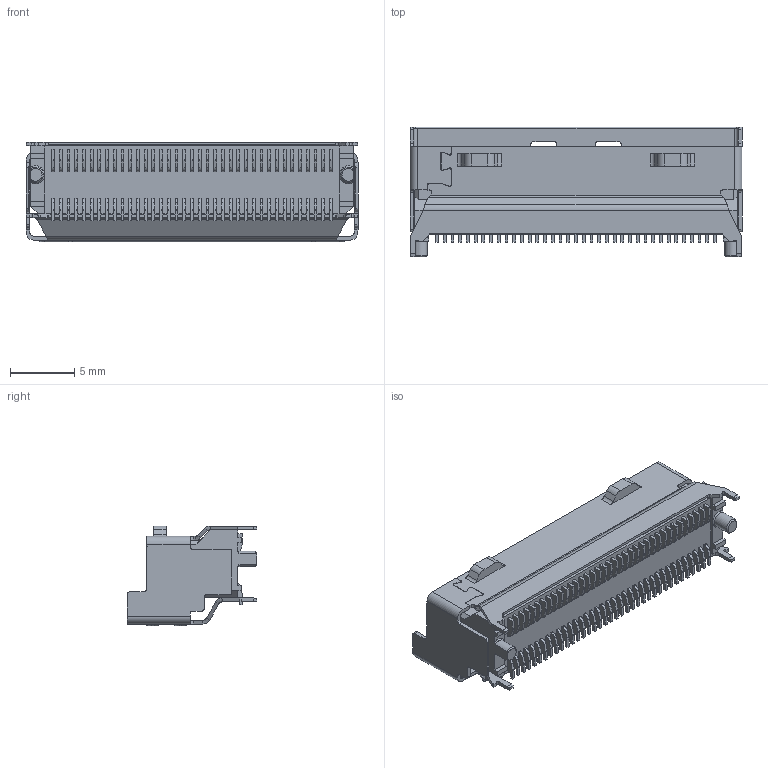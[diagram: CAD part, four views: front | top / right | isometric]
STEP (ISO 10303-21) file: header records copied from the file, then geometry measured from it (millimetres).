
FILE_DESCRIPTION((''),'2;1');
FILE_NAME('PMC074-3X0X-XXX-XH_CUSTOMER_10','2026-07-20T13:48:15',('39002408'),(''),'CREO PARAMETRIC BY PTC INC, 2019471','CREO PARAMETRIC BY PTC INC, 2019471','');
FILE_SCHEMA(('AUTOMOTIVE_DESIGN { 1 0 10303 214 1 1 1 1 }'));
Length unit declared in the file: millimetre
Products named in the file (1): PMC074-3X0X-XXX-XH_CUSTOMER_10
Bounding box: 25.8 x 10.1 x 7.77 mm (x, y, z)
Volume: 777.9 mm3; surface area: 2058.1 mm2
Topology: 1 solids, 1 shells, 1349 faces, 3626 edges, 2394 vertices
Faces by surface type: plane 1008, cylinder 315, bspline 20, cone 6
Entity records: 42838 total; most frequent: CARTESIAN_POINT 8655, ORIENTED_EDGE 7252, DIRECTION 6582, EDGE_CURVE 3626, VECTOR 2918, LINE 2918, VERTEX_POINT 2394, AXIS2_PLACEMENT_3D 1832
